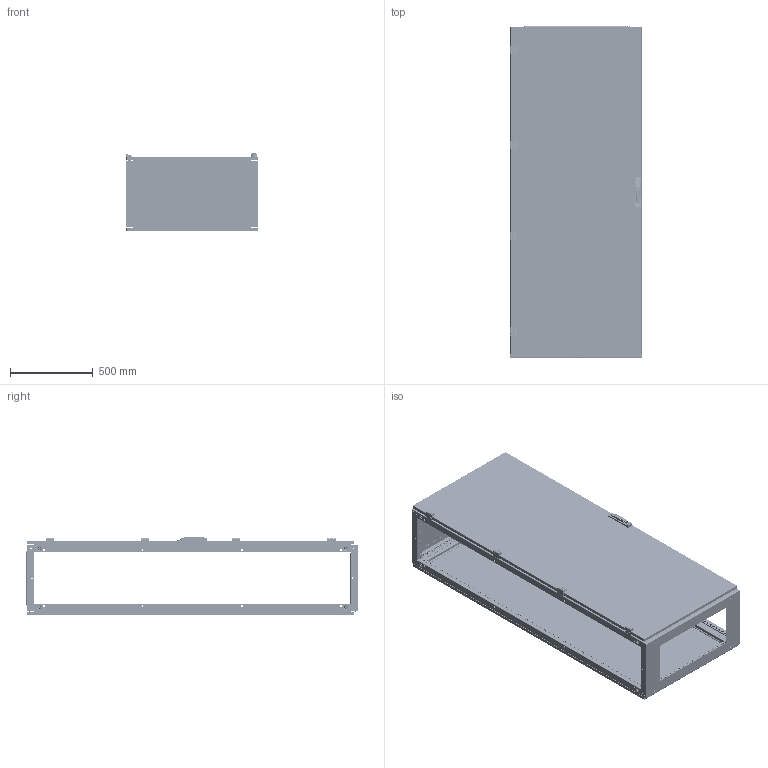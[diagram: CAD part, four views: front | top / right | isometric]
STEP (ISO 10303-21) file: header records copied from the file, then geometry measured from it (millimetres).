
FILE_DESCRIPTION (( 'STEP AP214' ), '1' );
FILE_NAME ('QA200804.step', '2011-08-10T08:15:30', ( 'Radek Veselý' ), ( 'Siemens and Partners' ), 'SwSTEP 2.0', 'SolidWorks 2006303', '' );
FILE_SCHEMA (( 'AUTOMOTIVE_DESIGN' ));
Length unit declared in the file: millimetre
Products named in the file (1): QA200804
Bounding box: 800 x 2004.5 x 476 mm (x, y, z)
Volume: 10700234.9 mm3; surface area: 12504512.7 mm2
Topology: 95 solids, 95 shells, 6848 faces, 18648 edges, 11994 vertices
Faces by surface type: plane 3673, cylinder 2619, cone 280, torus 168, sphere 60, bspline 48
Entity records: 298930 total; most frequent: CARTESIAN_POINT 39953, DIRECTION 37826, ORIENTED_EDGE 36928, EDGE_CURVE 18464, AXIS2_PLACEMENT_3D 12758, VECTOR 12310, LINE 12310, VERTEX_POINT 11978
